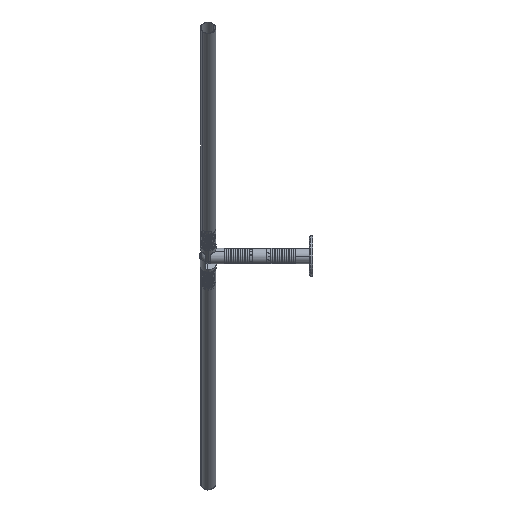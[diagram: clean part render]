
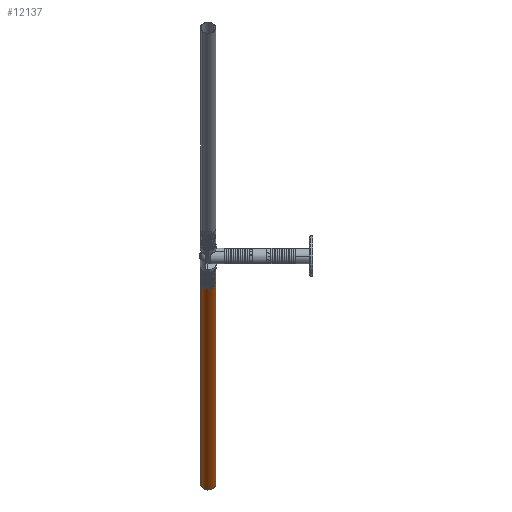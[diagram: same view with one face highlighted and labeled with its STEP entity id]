
A CAD part, left-side view. The second image highlights one B-rep face of the part: STEP entity #12137.
In plain terms, the highlighted cylindrical face has radius 13.716 mm (diameter 27.432 mm), a partial arc.
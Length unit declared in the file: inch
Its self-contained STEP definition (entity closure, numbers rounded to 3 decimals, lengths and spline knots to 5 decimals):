
#1281 = CARTESIAN_POINT ( 'NONE',  ( 0., 0., -0.54 ) ) ;
#3809 = VECTOR ( 'NONE', #9465, 39.37008 ) ;
#4341 = CARTESIAN_POINT ( 'NONE',  ( 0., 0., 0.54 ) ) ;
#7520 = CARTESIAN_POINT ( 'NONE',  ( -24., 0., -0.54 ) ) ;
#7699 = CYLINDRICAL_SURFACE ( 'NONE', #20403, 0.54 ) ;
#7706 = CARTESIAN_POINT ( 'NONE',  ( -24., 0., 0. ) ) ;
#7817 = CARTESIAN_POINT ( 'NONE',  ( 0., 0., -0.54 ) ) ;
#7880 = CARTESIAN_POINT ( 'NONE',  ( -24., 0., 0.54 ) ) ;
#7906 = VERTEX_POINT ( 'NONE', #7880 ) ;
#8963 = DIRECTION ( 'NONE',  ( 1., 0., 0. ) ) ;
#9465 = DIRECTION ( 'NONE',  ( 1., 0., 0. ) ) ;
#9671 = AXIS2_PLACEMENT_3D ( 'NONE', #7706, #24517, #10149 ) ;
#10149 = DIRECTION ( 'NONE',  ( 0., 0., -1. ) ) ;
#11324 = VERTEX_POINT ( 'NONE', #30220 ) ;
#12137 = ADVANCED_FACE ( 'NONE', ( #26821 ), #7699, .T. ) ;
#12616 = DIRECTION ( 'NONE',  ( 1., 0., 0. ) ) ;
#14593 = LINE ( 'NONE', #4341, #3809 ) ;
#14646 = CIRCLE ( 'NONE', #9671, 0.54 ) ;
#16138 = EDGE_LOOP ( 'NONE', ( #29412, #20436, #30103, #28979 ) ) ;
#18166 = VERTEX_POINT ( 'NONE', #7520 ) ;
#20403 = AXIS2_PLACEMENT_3D ( 'NONE', #29258, #12616, #26787 ) ;
#20436 = ORIENTED_EDGE ( 'NONE', *, *, #28219, .T. ) ;
#22065 = AXIS2_PLACEMENT_3D ( 'NONE', #23389, #8963, #25735 ) ;
#23389 = CARTESIAN_POINT ( 'NONE',  ( 0., 0., 0. ) ) ;
#23572 = VERTEX_POINT ( 'NONE', #1281 ) ;
#24517 = DIRECTION ( 'NONE',  ( 1., 0., 0. ) ) ;
#24631 = DIRECTION ( 'NONE',  ( 1., 0., 0. ) ) ;
#24704 = CIRCLE ( 'NONE', #22065, 0.54 ) ;
#25735 = DIRECTION ( 'NONE',  ( 0., 0., -1. ) ) ;
#26304 = VECTOR ( 'NONE', #24631, 39.37008 ) ;
#26787 = DIRECTION ( 'NONE',  ( 0., 0., -1. ) ) ;
#26821 = FACE_OUTER_BOUND ( 'NONE', #16138, .T. ) ;
#27749 = LINE ( 'NONE', #7817, #26304 ) ;
#28219 = EDGE_CURVE ( 'NONE', #7906, #18166, #14646, .T. ) ;
#28550 = EDGE_CURVE ( 'NONE', #11324, #23572, #24704, .T. ) ;
#28979 = ORIENTED_EDGE ( 'NONE', *, *, #28550, .F. ) ;
#29258 = CARTESIAN_POINT ( 'NONE',  ( 0., 0., 0. ) ) ;
#29405 = EDGE_CURVE ( 'NONE', #7906, #11324, #14593, .T. ) ;
#29412 = ORIENTED_EDGE ( 'NONE', *, *, #29405, .F. ) ;
#30103 = ORIENTED_EDGE ( 'NONE', *, *, #30234, .T. ) ;
#30220 = CARTESIAN_POINT ( 'NONE',  ( 0., 0., 0.54 ) ) ;
#30234 = EDGE_CURVE ( 'NONE', #18166, #23572, #27749, .T. ) ;
